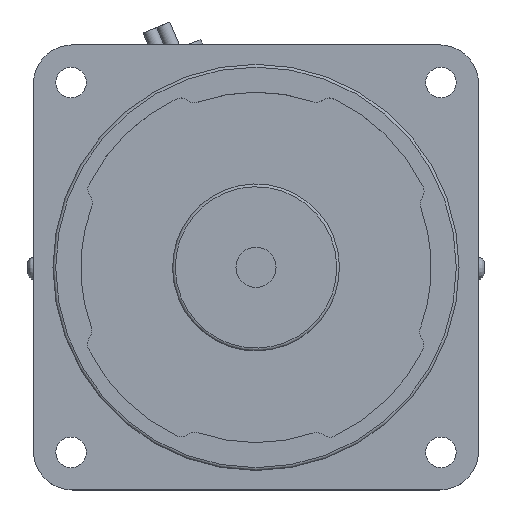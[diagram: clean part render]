
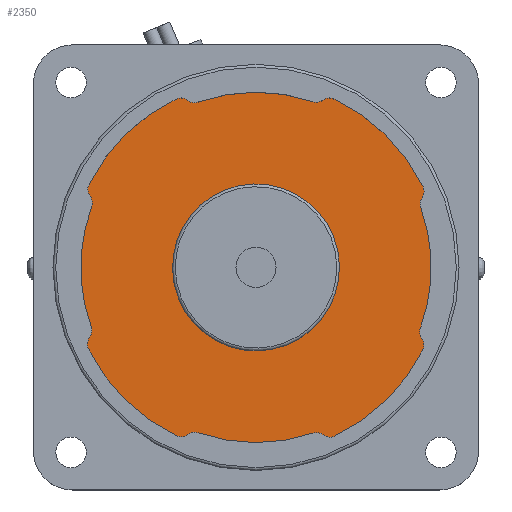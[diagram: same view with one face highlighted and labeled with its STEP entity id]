
A CAD part, top view. The second image highlights one B-rep face of the part: STEP entity #2350.
In plain terms, the highlighted planar face has unit normal (0, 0, 1).
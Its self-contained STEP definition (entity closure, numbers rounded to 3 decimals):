
#1377=CARTESIAN_POINT('',(5.498,-13.956,2.0));
#1378=VERTEX_POINT('',#1377);
#1379=CARTESIAN_POINT('',(0.0,0.0,2.));
#1380=DIRECTION('',(0.0,0.0,1.0));
#1381=DIRECTION('',(1.0,0.0,0.0));
#1382=AXIS2_PLACEMENT_3D('',#1379,#1380,#1381);
#1383=CIRCLE('',#1382,15.0);
#1384=EDGE_CURVE('',#1378,#1378,#1383,.T.);
#1692=CARTESIAN_POINT('',(-30.013,14.882,2.));
#1693=VERTEX_POINT('',#1692);
#1694=CARTESIAN_POINT('',(-29.824,12.797,2.));
#1695=VERTEX_POINT('',#1694);
#1696=CARTESIAN_POINT('',(-28.221,13.993,2.));
#1697=DIRECTION('',(0.0,0.0,1.0));
#1698=DIRECTION('',(0.896,-0.444,0.0));
#1699=AXIS2_PLACEMENT_3D('',#1696,#1697,#1698);
#1700=CIRCLE('',#1699,2.);
#1701=EDGE_CURVE('',#1693,#1695,#1700,.T.);
#1724=CARTESIAN_POINT('',(-29.551,10.908,2.));
#1725=VERTEX_POINT('',#1724);
#1726=CARTESIAN_POINT('',(-31.427,11.601,2.));
#1727=DIRECTION('',(0.0,0.0,-1.0));
#1728=DIRECTION('',(0.938,-0.346,0.0));
#1729=AXIS2_PLACEMENT_3D('',#1726,#1727,#1728);
#1730=CIRCLE('',#1729,2.0);
#1731=EDGE_CURVE('',#1695,#1725,#1730,.T.);
#1749=CARTESIAN_POINT('',(-29.624,-10.708,2.));
#1750=VERTEX_POINT('',#1749);
#1751=CARTESIAN_POINT('',(0.0,0.0,2.));
#1752=DIRECTION('',(0.0,0.0,1.0));
#1753=DIRECTION('',(0.938,-0.346,0.0));
#1754=AXIS2_PLACEMENT_3D('',#1751,#1752,#1753);
#1755=CIRCLE('',#1754,31.5);
#1756=EDGE_CURVE('',#1725,#1750,#1755,.T.);
#1774=CARTESIAN_POINT('',(-29.902,-12.584,2.));
#1775=VERTEX_POINT('',#1774);
#1776=CARTESIAN_POINT('',(-31.505,-11.388,2.));
#1777=DIRECTION('',(0.0,0.0,-1.0));
#1778=DIRECTION('',(0.801,-0.598,0.0));
#1779=AXIS2_PLACEMENT_3D('',#1776,#1777,#1778);
#1780=CIRCLE('',#1779,2.0);
#1781=EDGE_CURVE('',#1750,#1775,#1780,.T.);
#1799=CARTESIAN_POINT('',(-30.097,-14.656,2.));
#1800=VERTEX_POINT('',#1799);
#1801=CARTESIAN_POINT('',(-28.299,-13.78,2.));
#1802=DIRECTION('',(0.0,0.0,1.0));
#1803=DIRECTION('',(0.801,-0.598,0.0));
#1804=AXIS2_PLACEMENT_3D('',#1801,#1802,#1803);
#1805=CIRCLE('',#1804,2.);
#1806=EDGE_CURVE('',#1775,#1800,#1805,.T.);
#1824=CARTESIAN_POINT('',(-14.331,-30.253,2.));
#1825=VERTEX_POINT('',#1824);
#1826=CARTESIAN_POINT('',(0.0,0.0,2.));
#1827=DIRECTION('',(0.0,0.0,1.0));
#1828=DIRECTION('',(0.899,0.438,0.0));
#1829=AXIS2_PLACEMENT_3D('',#1826,#1827,#1828);
#1830=CIRCLE('',#1829,33.476);
#1831=EDGE_CURVE('',#1800,#1825,#1830,.T.);
#1849=CARTESIAN_POINT('',(-12.262,-30.036,2.));
#1850=VERTEX_POINT('',#1849);
#1851=CARTESIAN_POINT('',(-13.475,-28.446,2.));
#1852=DIRECTION('',(0.0,0.0,1.0));
#1853=DIRECTION('',(0.428,0.904,0.0));
#1854=AXIS2_PLACEMENT_3D('',#1851,#1852,#1853);
#1855=CIRCLE('',#1854,2.0);
#1856=EDGE_CURVE('',#1825,#1850,#1855,.T.);
#1874=CARTESIAN_POINT('',(-10.389,-29.738,2.));
#1875=VERTEX_POINT('',#1874);
#1876=CARTESIAN_POINT('',(-11.048,-31.626,2.));
#1877=DIRECTION('',(0.0,0.0,-1.0));
#1878=DIRECTION('',(0.33,0.944,0.0));
#1879=AXIS2_PLACEMENT_3D('',#1876,#1877,#1878);
#1880=CIRCLE('',#1879,2.);
#1881=EDGE_CURVE('',#1850,#1875,#1880,.T.);
#1899=CARTESIAN_POINT('',(10.189,-29.807,2.));
#1900=VERTEX_POINT('',#1899);
#1901=CARTESIAN_POINT('',(0.0,0.0,2.));
#1902=DIRECTION('',(0.0,0.0,1.0));
#1903=DIRECTION('',(0.33,0.944,0.0));
#1904=AXIS2_PLACEMENT_3D('',#1901,#1902,#1903);
#1905=CIRCLE('',#1904,31.5);
#1906=EDGE_CURVE('',#1875,#1900,#1905,.T.);
#1924=CARTESIAN_POINT('',(12.049,-30.109,2.));
#1925=VERTEX_POINT('',#1924);
#1926=CARTESIAN_POINT('',(10.836,-31.699,2.));
#1927=DIRECTION('',(0.0,0.0,-1.0));
#1928=DIRECTION('',(0.607,0.795,0.0));
#1929=AXIS2_PLACEMENT_3D('',#1926,#1927,#1928);
#1930=CIRCLE('',#1929,2.0);
#1931=EDGE_CURVE('',#1900,#1925,#1930,.T.);
#1949=CARTESIAN_POINT('',(14.106,-30.332,2.));
#1950=VERTEX_POINT('',#1949);
#1951=CARTESIAN_POINT('',(13.263,-28.519,2.));
#1952=DIRECTION('',(0.0,0.0,1.0));
#1953=DIRECTION('',(0.607,0.795,0.0));
#1954=AXIS2_PLACEMENT_3D('',#1951,#1952,#1953);
#1955=CIRCLE('',#1954,2.);
#1956=EDGE_CURVE('',#1925,#1950,#1955,.T.);
#1974=CARTESIAN_POINT('',(29.984,-14.832,2.));
#1975=VERTEX_POINT('',#1974);
#1976=CARTESIAN_POINT('',(0.0,0.0,2.));
#1977=DIRECTION('',(0.0,0.0,1.0));
#1978=DIRECTION('',(-0.422,0.907,0.0));
#1979=AXIS2_PLACEMENT_3D('',#1976,#1977,#1978);
#1980=CIRCLE('',#1979,33.452);
#1981=EDGE_CURVE('',#1950,#1975,#1980,.T.);
#1999=CARTESIAN_POINT('',(29.81,-12.771,2.));
#2000=VERTEX_POINT('',#1999);
#2001=CARTESIAN_POINT('',(28.191,-13.945,2.));
#2002=DIRECTION('',(0.0,0.0,1.0));
#2003=DIRECTION('',(-0.896,0.443,0.0));
#2004=AXIS2_PLACEMENT_3D('',#2001,#2002,#2003);
#2005=CIRCLE('',#2004,2.);
#2006=EDGE_CURVE('',#1975,#2000,#2005,.T.);
#2024=CARTESIAN_POINT('',(29.553,-10.904,2.));
#2025=VERTEX_POINT('',#2024);
#2026=CARTESIAN_POINT('',(31.429,-11.596,2.));
#2027=DIRECTION('',(0.0,0.0,-1.0));
#2028=DIRECTION('',(-0.938,0.346,0.0));
#2029=AXIS2_PLACEMENT_3D('',#2026,#2027,#2028);
#2030=CIRCLE('',#2029,2.0);
#2031=EDGE_CURVE('',#2000,#2025,#2030,.T.);
#2049=CARTESIAN_POINT('',(29.624,10.709,2.));
#2050=VERTEX_POINT('',#2049);
#2051=CARTESIAN_POINT('',(0.0,0.0,2.));
#2052=DIRECTION('',(0.0,0.0,1.0));
#2053=DIRECTION('',(-0.938,0.346,0.0));
#2054=AXIS2_PLACEMENT_3D('',#2051,#2052,#2053);
#2055=CIRCLE('',#2054,31.5);
#2056=EDGE_CURVE('',#2025,#2050,#2055,.T.);
#2074=CARTESIAN_POINT('',(29.862,12.531,2.));
#2075=VERTEX_POINT('',#2074);
#2076=CARTESIAN_POINT('',(31.505,11.389,2.));
#2077=DIRECTION('',(0.0,0.0,-1.0));
#2078=DIRECTION('',(-0.821,0.571,0.0));
#2079=AXIS2_PLACEMENT_3D('',#2076,#2077,#2078);
#2080=CIRCLE('',#2079,2.);
#2081=EDGE_CURVE('',#2050,#2075,#2080,.T.);
#2099=CARTESIAN_POINT('',(30.02,14.544,2.));
#2100=VERTEX_POINT('',#2099);
#2101=CARTESIAN_POINT('',(28.22,13.672,2.));
#2102=DIRECTION('',(0.0,0.0,1.0));
#2103=DIRECTION('',(-0.821,0.571,0.0));
#2104=AXIS2_PLACEMENT_3D('',#2101,#2102,#2103);
#2105=CIRCLE('',#2104,2.);
#2106=EDGE_CURVE('',#2075,#2100,#2105,.T.);
#2124=CARTESIAN_POINT('',(14.017,30.27,2.));
#2125=VERTEX_POINT('',#2124);
#2126=CARTESIAN_POINT('',(0.0,0.0,2.));
#2127=DIRECTION('',(0.0,0.0,1.0));
#2128=DIRECTION('',(-0.9,-0.436,0.0));
#2129=AXIS2_PLACEMENT_3D('',#2126,#2127,#2128);
#2130=CIRCLE('',#2129,33.358);
#2131=EDGE_CURVE('',#2100,#2125,#2130,.T.);
#2149=CARTESIAN_POINT('',(12.006,30.077,2.));
#2150=VERTEX_POINT('',#2149);
#2151=CARTESIAN_POINT('',(13.176,28.455,2.));
#2152=DIRECTION('',(0.0,0.0,1.0));
#2153=DIRECTION('',(-0.42,-0.907,0.0));
#2154=AXIS2_PLACEMENT_3D('',#2151,#2152,#2153);
#2155=CIRCLE('',#2154,2.);
#2156=EDGE_CURVE('',#2125,#2150,#2155,.T.);
#2174=CARTESIAN_POINT('',(10.189,29.807,2.));
#2175=VERTEX_POINT('',#2174);
#2176=CARTESIAN_POINT('',(10.836,31.699,2.));
#2177=DIRECTION('',(0.0,0.0,-1.0));
#2178=DIRECTION('',(-0.323,-0.946,0.0));
#2179=AXIS2_PLACEMENT_3D('',#2176,#2177,#2178);
#2180=CIRCLE('',#2179,2.);
#2181=EDGE_CURVE('',#2150,#2175,#2180,.T.);
#2199=CARTESIAN_POINT('',(-10.398,29.734,2.));
#2200=VERTEX_POINT('',#2199);
#2201=CARTESIAN_POINT('',(0.0,0.0,2.));
#2202=DIRECTION('',(0.0,0.0,1.0));
#2203=DIRECTION('',(-0.323,-0.946,0.0));
#2204=AXIS2_PLACEMENT_3D('',#2201,#2202,#2203);
#2205=CIRCLE('',#2204,31.5);
#2206=EDGE_CURVE('',#2175,#2200,#2205,.T.);
#2224=CARTESIAN_POINT('',(-12.282,30.04,2.));
#2225=VERTEX_POINT('',#2224);
#2226=CARTESIAN_POINT('',(-11.058,31.622,2.));
#2227=DIRECTION('',(0.0,0.0,-1.0));
#2228=DIRECTION('',(-0.612,-0.791,0.0));
#2229=AXIS2_PLACEMENT_3D('',#2226,#2227,#2228);
#2230=CIRCLE('',#2229,2.);
#2231=EDGE_CURVE('',#2200,#2225,#2230,.T.);
#2249=CARTESIAN_POINT('',(-14.363,30.265,2.));
#2250=VERTEX_POINT('',#2249);
#2251=CARTESIAN_POINT('',(-13.505,28.458,2.));
#2252=DIRECTION('',(0.0,0.0,1.0));
#2253=DIRECTION('',(-0.612,-0.791,0.0));
#2254=AXIS2_PLACEMENT_3D('',#2251,#2252,#2253);
#2255=CIRCLE('',#2254,2.);
#2256=EDGE_CURVE('',#2225,#2250,#2255,.T.);
#2274=CARTESIAN_POINT('',(0.0,0.0,2.));
#2275=DIRECTION('',(0.0,0.0,1.0));
#2276=DIRECTION('',(0.429,-0.903,0.0));
#2277=AXIS2_PLACEMENT_3D('',#2274,#2275,#2276);
#2278=CIRCLE('',#2277,33.5);
#2279=EDGE_CURVE('',#2250,#1693,#2278,.T.);
#2316=CARTESIAN_POINT('',(-0.045,-0.02,2.));
#2317=DIRECTION('',(0.0,0.0,1.0));
#2318=DIRECTION('',(1.0,0.0,0.0));
#2319=AXIS2_PLACEMENT_3D('',#2316,#2317,#2318);
#2320=PLANE('',#2319);
#2321=ORIENTED_EDGE('',*,*,#2279,.T.);
#2322=ORIENTED_EDGE('',*,*,#1701,.T.);
#2323=ORIENTED_EDGE('',*,*,#1731,.T.);
#2324=ORIENTED_EDGE('',*,*,#1756,.T.);
#2325=ORIENTED_EDGE('',*,*,#1781,.T.);
#2326=ORIENTED_EDGE('',*,*,#1806,.T.);
#2327=ORIENTED_EDGE('',*,*,#1831,.T.);
#2328=ORIENTED_EDGE('',*,*,#1856,.T.);
#2329=ORIENTED_EDGE('',*,*,#1881,.T.);
#2330=ORIENTED_EDGE('',*,*,#1906,.T.);
#2331=ORIENTED_EDGE('',*,*,#1931,.T.);
#2332=ORIENTED_EDGE('',*,*,#1956,.T.);
#2333=ORIENTED_EDGE('',*,*,#1981,.T.);
#2334=ORIENTED_EDGE('',*,*,#2006,.T.);
#2335=ORIENTED_EDGE('',*,*,#2031,.T.);
#2336=ORIENTED_EDGE('',*,*,#2056,.T.);
#2337=ORIENTED_EDGE('',*,*,#2081,.T.);
#2338=ORIENTED_EDGE('',*,*,#2106,.T.);
#2339=ORIENTED_EDGE('',*,*,#2131,.T.);
#2340=ORIENTED_EDGE('',*,*,#2156,.T.);
#2341=ORIENTED_EDGE('',*,*,#2181,.T.);
#2342=ORIENTED_EDGE('',*,*,#2206,.T.);
#2343=ORIENTED_EDGE('',*,*,#2231,.T.);
#2344=ORIENTED_EDGE('',*,*,#2256,.T.);
#2345=EDGE_LOOP('',(#2321,#2322,#2323,#2324,#2325,#2326,#2327,#2328,#2329,#2330,#2331,#2332,#2333,#2334,#2335,#2336,#2337,#2338,#2339,#2340,#2341,#2342,#2343,#2344));
#2346=FACE_OUTER_BOUND('',#2345,.T.);
#2347=ORIENTED_EDGE('',*,*,#1384,.F.);
#2348=EDGE_LOOP('',(#2347));
#2349=FACE_BOUND('',#2348,.T.);
#2350=ADVANCED_FACE('',(#2346,#2349),#2320,.T.);
